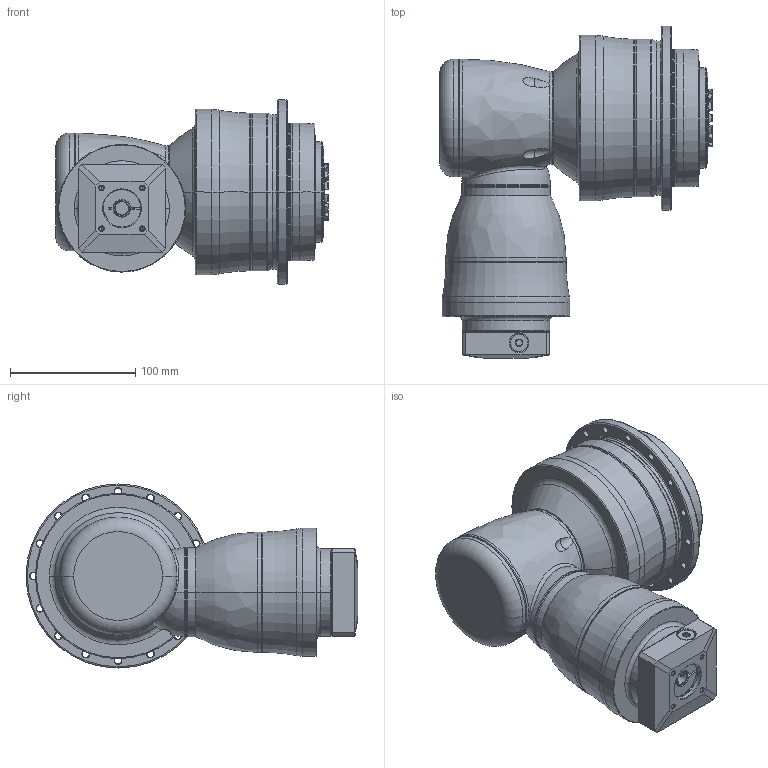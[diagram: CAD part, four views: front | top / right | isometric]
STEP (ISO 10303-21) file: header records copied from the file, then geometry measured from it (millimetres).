
FILE_DESCRIPTION((''),'2;1');
FILE_NAME('APCK110_4ST_11-P0409200201_ASM','2018-05-15T',('d01226'),(''),'PRO/ENGINEER BY PARAMETRIC TECHNOLOGY CORPORATION, 2008410','PRO/ENGINEER BY PARAMETRIC TECHNOLOGY CORPORATION, 2008410','');
FILE_SCHEMA(('CONFIG_CONTROL_DESIGN'));
Length unit declared in the file: millimetre
Products named in the file (13): P1008300002; P1832400001; P0278401003; P03594C0103; P1211400001; P1315300001; P1007301001; P1317310101; P0409200201; P0503200005; P0912201001; 21711410012; APCK110_4ST_11-P0409200201_ASM
Assembly tree (12 placements, depth 2):
  APCK110_4ST_11-P0409200201_ASM
    P1008300002
    P1832400001
    P0278401003
    P03594C0103
    P1211400001
    P1315300001
    P1007301001
    P1317310101
    P0409200201
    P0503200005
    P0912201001
    21711410012
Bounding box: 217.9 x 265 x 147 mm (x, y, z)
Volume: 2715188.7 mm3; surface area: 333141 mm2
Topology: 13 solids, 23 shells, 674 faces, 1594 edges, 969 vertices
Faces by surface type: cylinder 209, cone 188, plane 128, torus 112, bspline 35, sphere 2
Entity records: 26756 total; most frequent: CARTESIAN_POINT 10906, DIRECTION 3532, ORIENTED_EDGE 3094, EDGE_CURVE 1568, AXIS2_PLACEMENT_3D 1550, VERTEX_POINT 963, CIRCLE 876, EDGE_LOOP 767
